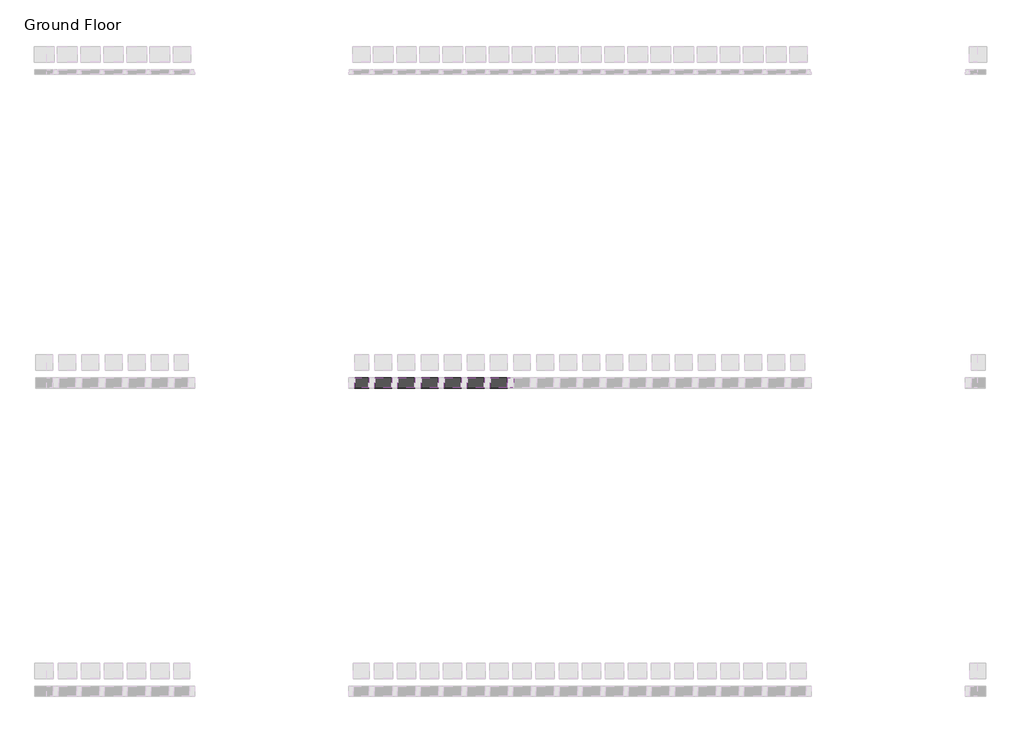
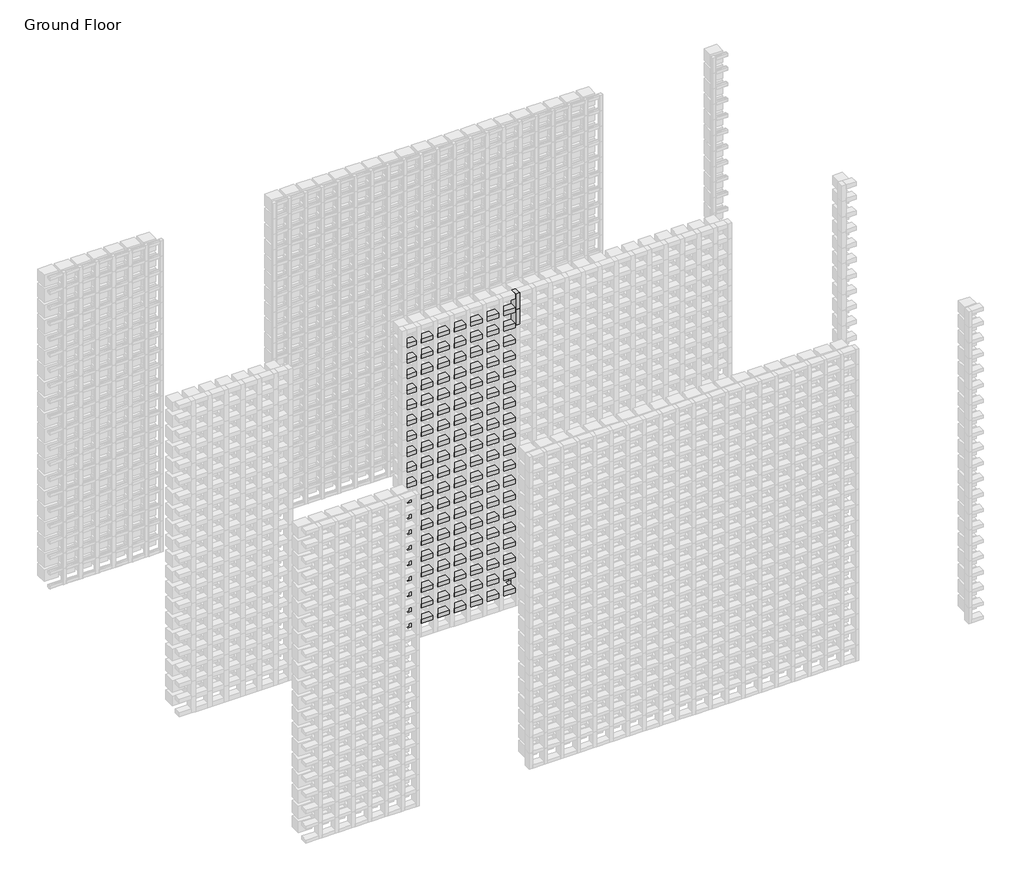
# One storey, part 146 of 350: 137 members, 7 plates.
"""IFC4 building model written with IfcOpenShell, lengths in millimetres."""

from ifc_helpers import new_model, si_unit, origin, place, context, project, spatial, transform, mapped, element, save
from components import rectangular_mullion_655930e9, rectangular_mullion_0b6a8654, rectangular_mullion_97e353d0, empty_system_panel_empty_1faefc6a

model = new_model("IFC4")

# Units and contexts
model_context = context("Model", 3, world=origin())
ifc_project = project(units=[si_unit("LENGTHUNIT", "METRE", prefix="MILLI")], contexts=[model_context])

# Site, building, storey
site = spatial("IfcSite", under=ifc_project)
building = spatial("IfcBuilding", under=site)
storey = spatial("IfcBuildingStorey", under=building, Name="Ground Floor", Elevation=0.0)

# Members
placement = place(None, origin())
rectangular_mullion_shape = rectangular_mullion_655930e9(model_context)
element("IfcMember", 1, ObjectType="Rectangular Mullion : Batten_Timber_Modinex_Austratus_Grid_Fascia_40x65_Ironbark", at=placement, inside=storey, context=model_context, shape_type="MappedRepresentation", body=[
    mapped(rectangular_mullion_shape, transform((15116.4361642, 40968.2978302, 0.0), x_axis=(1.0, 0.0, 0.0), y_axis=(0.0, -1.0, 0.0), z_axis=(0.0, 0.0, -1.0))),
])
element("IfcMember", 2, ObjectType="Rectangular Mullion : Batten_Timber_Modinex_Austratus_Grid_Fascia_40x65_Ironbark", at=placement, inside=storey, context=model_context, shape_type="MappedRepresentation", body=[
    mapped(rectangular_mullion_shape, transform((15266.4361642, 40968.2978302, 0.0), x_axis=(1.0, 0.0, 0.0), y_axis=(0.0, -1.0, 0.0), z_axis=(0.0, 0.0, -1.0))),
])
element("IfcMember", 3, ObjectType="Rectangular Mullion : Batten_Timber_Modinex_Austratus_Grid_Fascia_40x65_Ironbark", at=placement, inside=storey, context=model_context, shape_type="MappedRepresentation", body=[
    mapped(rectangular_mullion_shape, transform((14966.4361642, 40968.2978302, 2700.0), x_axis=(1.0, 0.0, 0.0), y_axis=(0.0, -1.0, 0.0), z_axis=(0.0, 0.0, -1.0))),
])
element("IfcMember", 4, ObjectType="Rectangular Mullion : Batten_Timber_Modinex_Austratus_Grid_Fascia_40x65_Ironbark", at=placement, inside=storey, context=model_context, shape_type="MappedRepresentation", body=[
    mapped(rectangular_mullion_shape, transform((14966.4361642, 40968.2978302, 2850.0), x_axis=(1.0, 0.0, 0.0), y_axis=(0.0, -1.0, 0.0), z_axis=(0.0, 0.0, -1.0))),
])
rectangular_mullion_2_shape = rectangular_mullion_0b6a8654(model_context)
element("IfcMember", 5, ObjectType="Rectangular Mullion : Batten_Timber_Modinex_Austratus_Grid_Fascia_40x65_Ironbark", at=placement, inside=storey, context=model_context, shape_type="MappedRepresentation", body=[
    mapped(rectangular_mullion_2_shape, transform((14046.4361642, 40968.2978302, 150.0), x_axis=(0.0, 0.0, 1.0), y_axis=(0.0, -1.0, 0.0), z_axis=(1.0, 0.0, 0.0))),
])
element("IfcMember", 6, ObjectType="Rectangular Mullion : Batten_Timber_Modinex_Austratus_Grid_Fascia_40x65_Ironbark", at=placement, inside=storey, context=model_context, shape_type="MappedRepresentation", body=[
    mapped(rectangular_mullion_2_shape, transform((14046.4361642, 40968.2978302, 300.0), x_axis=(0.0, 0.0, 1.0), y_axis=(0.0, -1.0, 0.0), z_axis=(1.0, 0.0, 0.0))),
])
element("IfcMember", 7, ObjectType="Rectangular Mullion : Batten_Timber_Modinex_Austratus_Grid_Fascia_40x65_Ironbark", at=placement, inside=storey, context=model_context, shape_type="MappedRepresentation", body=[
    mapped(rectangular_mullion_2_shape, transform((14046.4361642, 40968.2978302, 450.0), x_axis=(0.0, 0.0, 1.0), y_axis=(0.0, -1.0, 0.0), z_axis=(1.0, 0.0, 0.0))),
])
element("IfcMember", 8, ObjectType="Rectangular Mullion : Batten_Timber_Modinex_Austratus_Grid_Fascia_40x65_Ironbark", at=placement, inside=storey, context=model_context, shape_type="MappedRepresentation", body=[
    mapped(rectangular_mullion_2_shape, transform((14046.4361642, 40968.2978302, 600.0), x_axis=(0.0, 0.0, 1.0), y_axis=(0.0, -1.0, 0.0), z_axis=(1.0, 0.0, 0.0))),
])
element("IfcMember", 9, ObjectType="Rectangular Mullion : Batten_Timber_Modinex_Austratus_Grid_Fascia_40x65_Ironbark", at=placement, inside=storey, context=model_context, shape_type="MappedRepresentation", body=[
    mapped(rectangular_mullion_2_shape, transform((14046.4361642, 40968.2978302, 750.0), x_axis=(0.0, 0.0, 1.0), y_axis=(0.0, -1.0, 0.0), z_axis=(1.0, 0.0, 0.0))),
])
element("IfcMember", 10, ObjectType="Rectangular Mullion : Batten_Timber_Modinex_Austratus_Grid_Fascia_40x65_Ironbark", at=placement, inside=storey, context=model_context, shape_type="MappedRepresentation", body=[
    mapped(rectangular_mullion_2_shape, transform((14046.4361642, 40968.2978302, 900.0), x_axis=(0.0, 0.0, 1.0), y_axis=(0.0, -1.0, 0.0), z_axis=(1.0, 0.0, 0.0))),
])
element("IfcMember", 11, ObjectType="Rectangular Mullion : Batten_Timber_Modinex_Austratus_Grid_Fascia_40x65_Ironbark", at=placement, inside=storey, context=model_context, shape_type="MappedRepresentation", body=[
    mapped(rectangular_mullion_2_shape, transform((14046.4361642, 40968.2978302, 1050.0), x_axis=(0.0, 0.0, 1.0), y_axis=(0.0, -1.0, 0.0), z_axis=(1.0, 0.0, 0.0))),
])
element("IfcMember", 12, ObjectType="Rectangular Mullion : Batten_Timber_Modinex_Austratus_Grid_Fascia_40x65_Ironbark", at=placement, inside=storey, context=model_context, shape_type="MappedRepresentation", body=[
    mapped(rectangular_mullion_2_shape, transform((14046.4361642, 40968.2978302, 1200.0), x_axis=(0.0, 0.0, 1.0), y_axis=(0.0, -1.0, 0.0), z_axis=(1.0, 0.0, 0.0))),
])
element("IfcMember", 13, ObjectType="Rectangular Mullion : Batten_Timber_Modinex_Austratus_Grid_Fascia_40x65_Ironbark", at=placement, inside=storey, context=model_context, shape_type="MappedRepresentation", body=[
    mapped(rectangular_mullion_2_shape, transform((14046.4361642, 40968.2978302, 1350.0), x_axis=(0.0, 0.0, 1.0), y_axis=(0.0, -1.0, 0.0), z_axis=(1.0, 0.0, 0.0))),
])
element("IfcMember", 14, ObjectType="Rectangular Mullion : Batten_Timber_Modinex_Austratus_Grid_Fascia_40x65_Ironbark", at=placement, inside=storey, context=model_context, shape_type="MappedRepresentation", body=[
    mapped(rectangular_mullion_2_shape, transform((14046.4361642, 40968.2978302, 1500.0), x_axis=(0.0, 0.0, 1.0), y_axis=(0.0, -1.0, 0.0), z_axis=(1.0, 0.0, 0.0))),
])
element("IfcMember", 15, ObjectType="Rectangular Mullion : Batten_Timber_Modinex_Austratus_Grid_Fascia_40x65_Ironbark", at=placement, inside=storey, context=model_context, shape_type="MappedRepresentation", body=[
    mapped(rectangular_mullion_2_shape, transform((14046.4361642, 40968.2978302, 1650.0), x_axis=(0.0, 0.0, 1.0), y_axis=(0.0, -1.0, 0.0), z_axis=(1.0, 0.0, 0.0))),
])
element("IfcMember", 16, ObjectType="Rectangular Mullion : Batten_Timber_Modinex_Austratus_Grid_Fascia_40x65_Ironbark", at=placement, inside=storey, context=model_context, shape_type="MappedRepresentation", body=[
    mapped(rectangular_mullion_2_shape, transform((14046.4361642, 40968.2978302, 1800.0), x_axis=(0.0, 0.0, 1.0), y_axis=(0.0, -1.0, 0.0), z_axis=(1.0, 0.0, 0.0))),
])
element("IfcMember", 17, ObjectType="Rectangular Mullion : Batten_Timber_Modinex_Austratus_Grid_Fascia_40x65_Ironbark", at=placement, inside=storey, context=model_context, shape_type="MappedRepresentation", body=[
    mapped(rectangular_mullion_2_shape, transform((14046.4361642, 40968.2978302, 1950.0), x_axis=(0.0, 0.0, 1.0), y_axis=(0.0, -1.0, 0.0), z_axis=(1.0, 0.0, 0.0))),
])
element("IfcMember", 18, ObjectType="Rectangular Mullion : Batten_Timber_Modinex_Austratus_Grid_Fascia_40x65_Ironbark", at=placement, inside=storey, context=model_context, shape_type="MappedRepresentation", body=[
    mapped(rectangular_mullion_2_shape, transform((14046.4361642, 40968.2978302, 2100.0), x_axis=(0.0, 0.0, 1.0), y_axis=(0.0, -1.0, 0.0), z_axis=(1.0, 0.0, 0.0))),
])
element("IfcMember", 19, ObjectType="Rectangular Mullion : Batten_Timber_Modinex_Austratus_Grid_Fascia_40x65_Ironbark", at=placement, inside=storey, context=model_context, shape_type="MappedRepresentation", body=[
    mapped(rectangular_mullion_2_shape, transform((14046.4361642, 40968.2978302, 2250.0), x_axis=(0.0, 0.0, 1.0), y_axis=(0.0, -1.0, 0.0), z_axis=(1.0, 0.0, 0.0))),
])
element("IfcMember", 20, ObjectType="Rectangular Mullion : Batten_Timber_Modinex_Austratus_Grid_Fascia_40x65_Ironbark", at=placement, inside=storey, context=model_context, shape_type="MappedRepresentation", body=[
    mapped(rectangular_mullion_2_shape, transform((14046.4361642, 40968.2978302, 2400.0), x_axis=(0.0, 0.0, 1.0), y_axis=(0.0, -1.0, 0.0), z_axis=(1.0, 0.0, 0.0))),
])
element("IfcMember", 21, ObjectType="Rectangular Mullion : Batten_Timber_Modinex_Austratus_Grid_Fascia_40x65_Ironbark", at=placement, inside=storey, context=model_context, shape_type="MappedRepresentation", body=[
    mapped(rectangular_mullion_2_shape, transform((14046.4361642, 40968.2978302, 2550.0), x_axis=(0.0, 0.0, 1.0), y_axis=(0.0, -1.0, 0.0), z_axis=(1.0, 0.0, 0.0))),
])
element("IfcMember", 22, ObjectType="Rectangular Mullion : Batten_Timber_Modinex_Austratus_Grid_Fascia_40x65_Ironbark", at=placement, inside=storey, context=model_context, shape_type="MappedRepresentation", body=[
    mapped(rectangular_mullion_2_shape, transform((14046.4361642, 40968.2978302, 2700.0), x_axis=(0.0, 0.0, 1.0), y_axis=(0.0, -1.0, 0.0), z_axis=(1.0, 0.0, 0.0))),
])
element("IfcMember", 23, ObjectType="Rectangular Mullion : Batten_Timber_Modinex_Austratus_Grid_Fascia_40x65_Ironbark", at=placement, inside=storey, context=model_context, shape_type="MappedRepresentation", body=[
    mapped(rectangular_mullion_2_shape, transform((14046.4361642, 40968.2978302, 2850.0), x_axis=(0.0, 0.0, 1.0), y_axis=(0.0, -1.0, 0.0), z_axis=(1.0, 0.0, 0.0))),
])
rectangular_mullion_3_shape = rectangular_mullion_97e353d0(model_context)
element("IfcMember", 24, ObjectType="Rectangular Mullion : Batten_Timber_Modinex_Austratus_Grid_Fascia_40x65_Ironbark", at=placement, inside=storey, context=model_context, shape_type="MappedRepresentation", body=[
    mapped(rectangular_mullion_3_shape, transform((14196.4361642, 40968.2978302, 150.0), x_axis=(0.0, 0.0, 1.0), y_axis=(0.0, -1.0, 0.0), z_axis=(1.0, 0.0, 0.0))),
])
element("IfcMember", 25, ObjectType="Rectangular Mullion : Batten_Timber_Modinex_Austratus_Grid_Fascia_40x65_Ironbark", at=placement, inside=storey, context=model_context, shape_type="MappedRepresentation", body=[
    mapped(rectangular_mullion_3_shape, transform((14346.4361642, 40968.2978302, 150.0), x_axis=(0.0, 0.0, 1.0), y_axis=(0.0, -1.0, 0.0), z_axis=(1.0, 0.0, 0.0))),
])
element("IfcMember", 26, ObjectType="Rectangular Mullion : Batten_Timber_Modinex_Austratus_Grid_Fascia_40x65_Ironbark", at=placement, inside=storey, context=model_context, shape_type="MappedRepresentation", body=[
    mapped(rectangular_mullion_3_shape, transform((14496.4361642, 40968.2978302, 150.0), x_axis=(0.0, 0.0, 1.0), y_axis=(0.0, -1.0, 0.0), z_axis=(1.0, 0.0, 0.0))),
])
element("IfcMember", 27, ObjectType="Rectangular Mullion : Batten_Timber_Modinex_Austratus_Grid_Fascia_40x65_Ironbark", at=placement, inside=storey, context=model_context, shape_type="MappedRepresentation", body=[
    mapped(rectangular_mullion_3_shape, transform((14646.4361642, 40968.2978302, 150.0), x_axis=(0.0, 0.0, 1.0), y_axis=(0.0, -1.0, 0.0), z_axis=(1.0, 0.0, 0.0))),
])
element("IfcMember", 28, ObjectType="Rectangular Mullion : Batten_Timber_Modinex_Austratus_Grid_Fascia_40x65_Ironbark", at=placement, inside=storey, context=model_context, shape_type="MappedRepresentation", body=[
    mapped(rectangular_mullion_3_shape, transform((14796.4361642, 40968.2978302, 150.0), x_axis=(0.0, 0.0, 1.0), y_axis=(0.0, -1.0, 0.0), z_axis=(1.0, 0.0, 0.0))),
])
element("IfcMember", 29, ObjectType="Rectangular Mullion : Batten_Timber_Modinex_Austratus_Grid_Fascia_40x65_Ironbark", at=placement, inside=storey, context=model_context, shape_type="MappedRepresentation", body=[
    mapped(rectangular_mullion_3_shape, transform((14946.4361642, 40968.2978302, 150.0), x_axis=(0.0, 0.0, 1.0), y_axis=(0.0, -1.0, 0.0), z_axis=(1.0, 0.0, 0.0))),
])
element("IfcMember", 30, ObjectType="Rectangular Mullion : Batten_Timber_Modinex_Austratus_Grid_Fascia_40x65_Ironbark", at=placement, inside=storey, context=model_context, shape_type="MappedRepresentation", body=[
    mapped(rectangular_mullion_3_shape, transform((14196.4361642, 40968.2978302, 300.0), x_axis=(0.0, 0.0, 1.0), y_axis=(0.0, -1.0, 0.0), z_axis=(1.0, 0.0, 0.0))),
])
element("IfcMember", 31, ObjectType="Rectangular Mullion : Batten_Timber_Modinex_Austratus_Grid_Fascia_40x65_Ironbark", at=placement, inside=storey, context=model_context, shape_type="MappedRepresentation", body=[
    mapped(rectangular_mullion_3_shape, transform((14346.4361642, 40968.2978302, 300.0), x_axis=(0.0, 0.0, 1.0), y_axis=(0.0, -1.0, 0.0), z_axis=(1.0, 0.0, 0.0))),
])
element("IfcMember", 32, ObjectType="Rectangular Mullion : Batten_Timber_Modinex_Austratus_Grid_Fascia_40x65_Ironbark", at=placement, inside=storey, context=model_context, shape_type="MappedRepresentation", body=[
    mapped(rectangular_mullion_3_shape, transform((14496.4361642, 40968.2978302, 300.0), x_axis=(0.0, 0.0, 1.0), y_axis=(0.0, -1.0, 0.0), z_axis=(1.0, 0.0, 0.0))),
])
element("IfcMember", 33, ObjectType="Rectangular Mullion : Batten_Timber_Modinex_Austratus_Grid_Fascia_40x65_Ironbark", at=placement, inside=storey, context=model_context, shape_type="MappedRepresentation", body=[
    mapped(rectangular_mullion_3_shape, transform((14646.4361642, 40968.2978302, 300.0), x_axis=(0.0, 0.0, 1.0), y_axis=(0.0, -1.0, 0.0), z_axis=(1.0, 0.0, 0.0))),
])
element("IfcMember", 34, ObjectType="Rectangular Mullion : Batten_Timber_Modinex_Austratus_Grid_Fascia_40x65_Ironbark", at=placement, inside=storey, context=model_context, shape_type="MappedRepresentation", body=[
    mapped(rectangular_mullion_3_shape, transform((14796.4361642, 40968.2978302, 300.0), x_axis=(0.0, 0.0, 1.0), y_axis=(0.0, -1.0, 0.0), z_axis=(1.0, 0.0, 0.0))),
])
element("IfcMember", 35, ObjectType="Rectangular Mullion : Batten_Timber_Modinex_Austratus_Grid_Fascia_40x65_Ironbark", at=placement, inside=storey, context=model_context, shape_type="MappedRepresentation", body=[
    mapped(rectangular_mullion_3_shape, transform((14946.4361642, 40968.2978302, 300.0), x_axis=(0.0, 0.0, 1.0), y_axis=(0.0, -1.0, 0.0), z_axis=(1.0, 0.0, 0.0))),
])
element("IfcMember", 36, ObjectType="Rectangular Mullion : Batten_Timber_Modinex_Austratus_Grid_Fascia_40x65_Ironbark", at=placement, inside=storey, context=model_context, shape_type="MappedRepresentation", body=[
    mapped(rectangular_mullion_3_shape, transform((14196.4361642, 40968.2978302, 450.0), x_axis=(0.0, 0.0, 1.0), y_axis=(0.0, -1.0, 0.0), z_axis=(1.0, 0.0, 0.0))),
])
element("IfcMember", 37, ObjectType="Rectangular Mullion : Batten_Timber_Modinex_Austratus_Grid_Fascia_40x65_Ironbark", at=placement, inside=storey, context=model_context, shape_type="MappedRepresentation", body=[
    mapped(rectangular_mullion_3_shape, transform((14346.4361642, 40968.2978302, 450.0), x_axis=(0.0, 0.0, 1.0), y_axis=(0.0, -1.0, 0.0), z_axis=(1.0, 0.0, 0.0))),
])
element("IfcMember", 38, ObjectType="Rectangular Mullion : Batten_Timber_Modinex_Austratus_Grid_Fascia_40x65_Ironbark", at=placement, inside=storey, context=model_context, shape_type="MappedRepresentation", body=[
    mapped(rectangular_mullion_3_shape, transform((14496.4361642, 40968.2978302, 450.0), x_axis=(0.0, 0.0, 1.0), y_axis=(0.0, -1.0, 0.0), z_axis=(1.0, 0.0, 0.0))),
])
element("IfcMember", 39, ObjectType="Rectangular Mullion : Batten_Timber_Modinex_Austratus_Grid_Fascia_40x65_Ironbark", at=placement, inside=storey, context=model_context, shape_type="MappedRepresentation", body=[
    mapped(rectangular_mullion_3_shape, transform((14646.4361642, 40968.2978302, 450.0), x_axis=(0.0, 0.0, 1.0), y_axis=(0.0, -1.0, 0.0), z_axis=(1.0, 0.0, 0.0))),
])
element("IfcMember", 40, ObjectType="Rectangular Mullion : Batten_Timber_Modinex_Austratus_Grid_Fascia_40x65_Ironbark", at=placement, inside=storey, context=model_context, shape_type="MappedRepresentation", body=[
    mapped(rectangular_mullion_3_shape, transform((14796.4361642, 40968.2978302, 450.0), x_axis=(0.0, 0.0, 1.0), y_axis=(0.0, -1.0, 0.0), z_axis=(1.0, 0.0, 0.0))),
])
element("IfcMember", 41, ObjectType="Rectangular Mullion : Batten_Timber_Modinex_Austratus_Grid_Fascia_40x65_Ironbark", at=placement, inside=storey, context=model_context, shape_type="MappedRepresentation", body=[
    mapped(rectangular_mullion_3_shape, transform((14946.4361642, 40968.2978302, 450.0), x_axis=(0.0, 0.0, 1.0), y_axis=(0.0, -1.0, 0.0), z_axis=(1.0, 0.0, 0.0))),
])
element("IfcMember", 42, ObjectType="Rectangular Mullion : Batten_Timber_Modinex_Austratus_Grid_Fascia_40x65_Ironbark", at=placement, inside=storey, context=model_context, shape_type="MappedRepresentation", body=[
    mapped(rectangular_mullion_3_shape, transform((14196.4361642, 40968.2978302, 600.0), x_axis=(0.0, 0.0, 1.0), y_axis=(0.0, -1.0, 0.0), z_axis=(1.0, 0.0, 0.0))),
])
element("IfcMember", 43, ObjectType="Rectangular Mullion : Batten_Timber_Modinex_Austratus_Grid_Fascia_40x65_Ironbark", at=placement, inside=storey, context=model_context, shape_type="MappedRepresentation", body=[
    mapped(rectangular_mullion_3_shape, transform((14346.4361642, 40968.2978302, 600.0), x_axis=(0.0, 0.0, 1.0), y_axis=(0.0, -1.0, 0.0), z_axis=(1.0, 0.0, 0.0))),
])
element("IfcMember", 44, ObjectType="Rectangular Mullion : Batten_Timber_Modinex_Austratus_Grid_Fascia_40x65_Ironbark", at=placement, inside=storey, context=model_context, shape_type="MappedRepresentation", body=[
    mapped(rectangular_mullion_3_shape, transform((14496.4361642, 40968.2978302, 600.0), x_axis=(0.0, 0.0, 1.0), y_axis=(0.0, -1.0, 0.0), z_axis=(1.0, 0.0, 0.0))),
])
element("IfcMember", 45, ObjectType="Rectangular Mullion : Batten_Timber_Modinex_Austratus_Grid_Fascia_40x65_Ironbark", at=placement, inside=storey, context=model_context, shape_type="MappedRepresentation", body=[
    mapped(rectangular_mullion_3_shape, transform((14646.4361642, 40968.2978302, 600.0), x_axis=(0.0, 0.0, 1.0), y_axis=(0.0, -1.0, 0.0), z_axis=(1.0, 0.0, 0.0))),
])
element("IfcMember", 46, ObjectType="Rectangular Mullion : Batten_Timber_Modinex_Austratus_Grid_Fascia_40x65_Ironbark", at=placement, inside=storey, context=model_context, shape_type="MappedRepresentation", body=[
    mapped(rectangular_mullion_3_shape, transform((14796.4361642, 40968.2978302, 600.0), x_axis=(0.0, 0.0, 1.0), y_axis=(0.0, -1.0, 0.0), z_axis=(1.0, 0.0, 0.0))),
])
element("IfcMember", 47, ObjectType="Rectangular Mullion : Batten_Timber_Modinex_Austratus_Grid_Fascia_40x65_Ironbark", at=placement, inside=storey, context=model_context, shape_type="MappedRepresentation", body=[
    mapped(rectangular_mullion_3_shape, transform((14946.4361642, 40968.2978302, 600.0), x_axis=(0.0, 0.0, 1.0), y_axis=(0.0, -1.0, 0.0), z_axis=(1.0, 0.0, 0.0))),
])
element("IfcMember", 48, ObjectType="Rectangular Mullion : Batten_Timber_Modinex_Austratus_Grid_Fascia_40x65_Ironbark", at=placement, inside=storey, context=model_context, shape_type="MappedRepresentation", body=[
    mapped(rectangular_mullion_3_shape, transform((14196.4361642, 40968.2978302, 750.0), x_axis=(0.0, 0.0, 1.0), y_axis=(0.0, -1.0, 0.0), z_axis=(1.0, 0.0, 0.0))),
])
element("IfcMember", 49, ObjectType="Rectangular Mullion : Batten_Timber_Modinex_Austratus_Grid_Fascia_40x65_Ironbark", at=placement, inside=storey, context=model_context, shape_type="MappedRepresentation", body=[
    mapped(rectangular_mullion_3_shape, transform((14346.4361642, 40968.2978302, 750.0), x_axis=(0.0, 0.0, 1.0), y_axis=(0.0, -1.0, 0.0), z_axis=(1.0, 0.0, 0.0))),
])
element("IfcMember", 50, ObjectType="Rectangular Mullion : Batten_Timber_Modinex_Austratus_Grid_Fascia_40x65_Ironbark", at=placement, inside=storey, context=model_context, shape_type="MappedRepresentation", body=[
    mapped(rectangular_mullion_3_shape, transform((14496.4361642, 40968.2978302, 750.0), x_axis=(0.0, 0.0, 1.0), y_axis=(0.0, -1.0, 0.0), z_axis=(1.0, 0.0, 0.0))),
])
element("IfcMember", 51, ObjectType="Rectangular Mullion : Batten_Timber_Modinex_Austratus_Grid_Fascia_40x65_Ironbark", at=placement, inside=storey, context=model_context, shape_type="MappedRepresentation", body=[
    mapped(rectangular_mullion_3_shape, transform((14646.4361642, 40968.2978302, 750.0), x_axis=(0.0, 0.0, 1.0), y_axis=(0.0, -1.0, 0.0), z_axis=(1.0, 0.0, 0.0))),
])
element("IfcMember", 52, ObjectType="Rectangular Mullion : Batten_Timber_Modinex_Austratus_Grid_Fascia_40x65_Ironbark", at=placement, inside=storey, context=model_context, shape_type="MappedRepresentation", body=[
    mapped(rectangular_mullion_3_shape, transform((14796.4361642, 40968.2978302, 750.0), x_axis=(0.0, 0.0, 1.0), y_axis=(0.0, -1.0, 0.0), z_axis=(1.0, 0.0, 0.0))),
])
element("IfcMember", 53, ObjectType="Rectangular Mullion : Batten_Timber_Modinex_Austratus_Grid_Fascia_40x65_Ironbark", at=placement, inside=storey, context=model_context, shape_type="MappedRepresentation", body=[
    mapped(rectangular_mullion_3_shape, transform((14946.4361642, 40968.2978302, 750.0), x_axis=(0.0, 0.0, 1.0), y_axis=(0.0, -1.0, 0.0), z_axis=(1.0, 0.0, 0.0))),
])
element("IfcMember", 54, ObjectType="Rectangular Mullion : Batten_Timber_Modinex_Austratus_Grid_Fascia_40x65_Ironbark", at=placement, inside=storey, context=model_context, shape_type="MappedRepresentation", body=[
    mapped(rectangular_mullion_3_shape, transform((14196.4361642, 40968.2978302, 900.0), x_axis=(0.0, 0.0, 1.0), y_axis=(0.0, -1.0, 0.0), z_axis=(1.0, 0.0, 0.0))),
])
element("IfcMember", 55, ObjectType="Rectangular Mullion : Batten_Timber_Modinex_Austratus_Grid_Fascia_40x65_Ironbark", at=placement, inside=storey, context=model_context, shape_type="MappedRepresentation", body=[
    mapped(rectangular_mullion_3_shape, transform((14346.4361642, 40968.2978302, 900.0), x_axis=(0.0, 0.0, 1.0), y_axis=(0.0, -1.0, 0.0), z_axis=(1.0, 0.0, 0.0))),
])
element("IfcMember", 56, ObjectType="Rectangular Mullion : Batten_Timber_Modinex_Austratus_Grid_Fascia_40x65_Ironbark", at=placement, inside=storey, context=model_context, shape_type="MappedRepresentation", body=[
    mapped(rectangular_mullion_3_shape, transform((14496.4361642, 40968.2978302, 900.0), x_axis=(0.0, 0.0, 1.0), y_axis=(0.0, -1.0, 0.0), z_axis=(1.0, 0.0, 0.0))),
])
element("IfcMember", 57, ObjectType="Rectangular Mullion : Batten_Timber_Modinex_Austratus_Grid_Fascia_40x65_Ironbark", at=placement, inside=storey, context=model_context, shape_type="MappedRepresentation", body=[
    mapped(rectangular_mullion_3_shape, transform((14646.4361642, 40968.2978302, 900.0), x_axis=(0.0, 0.0, 1.0), y_axis=(0.0, -1.0, 0.0), z_axis=(1.0, 0.0, 0.0))),
])
element("IfcMember", 58, ObjectType="Rectangular Mullion : Batten_Timber_Modinex_Austratus_Grid_Fascia_40x65_Ironbark", at=placement, inside=storey, context=model_context, shape_type="MappedRepresentation", body=[
    mapped(rectangular_mullion_3_shape, transform((14796.4361642, 40968.2978302, 900.0), x_axis=(0.0, 0.0, 1.0), y_axis=(0.0, -1.0, 0.0), z_axis=(1.0, 0.0, 0.0))),
])
element("IfcMember", 59, ObjectType="Rectangular Mullion : Batten_Timber_Modinex_Austratus_Grid_Fascia_40x65_Ironbark", at=placement, inside=storey, context=model_context, shape_type="MappedRepresentation", body=[
    mapped(rectangular_mullion_3_shape, transform((14946.4361642, 40968.2978302, 900.0), x_axis=(0.0, 0.0, 1.0), y_axis=(0.0, -1.0, 0.0), z_axis=(1.0, 0.0, 0.0))),
])
element("IfcMember", 60, ObjectType="Rectangular Mullion : Batten_Timber_Modinex_Austratus_Grid_Fascia_40x65_Ironbark", at=placement, inside=storey, context=model_context, shape_type="MappedRepresentation", body=[
    mapped(rectangular_mullion_3_shape, transform((14196.4361642, 40968.2978302, 1050.0), x_axis=(0.0, 0.0, 1.0), y_axis=(0.0, -1.0, 0.0), z_axis=(1.0, 0.0, 0.0))),
])
element("IfcMember", 61, ObjectType="Rectangular Mullion : Batten_Timber_Modinex_Austratus_Grid_Fascia_40x65_Ironbark", at=placement, inside=storey, context=model_context, shape_type="MappedRepresentation", body=[
    mapped(rectangular_mullion_3_shape, transform((14346.4361642, 40968.2978302, 1050.0), x_axis=(0.0, 0.0, 1.0), y_axis=(0.0, -1.0, 0.0), z_axis=(1.0, 0.0, 0.0))),
])
element("IfcMember", 62, ObjectType="Rectangular Mullion : Batten_Timber_Modinex_Austratus_Grid_Fascia_40x65_Ironbark", at=placement, inside=storey, context=model_context, shape_type="MappedRepresentation", body=[
    mapped(rectangular_mullion_3_shape, transform((14496.4361642, 40968.2978302, 1050.0), x_axis=(0.0, 0.0, 1.0), y_axis=(0.0, -1.0, 0.0), z_axis=(1.0, 0.0, 0.0))),
])
element("IfcMember", 63, ObjectType="Rectangular Mullion : Batten_Timber_Modinex_Austratus_Grid_Fascia_40x65_Ironbark", at=placement, inside=storey, context=model_context, shape_type="MappedRepresentation", body=[
    mapped(rectangular_mullion_3_shape, transform((14646.4361642, 40968.2978302, 1050.0), x_axis=(0.0, 0.0, 1.0), y_axis=(0.0, -1.0, 0.0), z_axis=(1.0, 0.0, 0.0))),
])
element("IfcMember", 64, ObjectType="Rectangular Mullion : Batten_Timber_Modinex_Austratus_Grid_Fascia_40x65_Ironbark", at=placement, inside=storey, context=model_context, shape_type="MappedRepresentation", body=[
    mapped(rectangular_mullion_3_shape, transform((14796.4361642, 40968.2978302, 1050.0), x_axis=(0.0, 0.0, 1.0), y_axis=(0.0, -1.0, 0.0), z_axis=(1.0, 0.0, 0.0))),
])
element("IfcMember", 65, ObjectType="Rectangular Mullion : Batten_Timber_Modinex_Austratus_Grid_Fascia_40x65_Ironbark", at=placement, inside=storey, context=model_context, shape_type="MappedRepresentation", body=[
    mapped(rectangular_mullion_3_shape, transform((14946.4361642, 40968.2978302, 1050.0), x_axis=(0.0, 0.0, 1.0), y_axis=(0.0, -1.0, 0.0), z_axis=(1.0, 0.0, 0.0))),
])
element("IfcMember", 66, ObjectType="Rectangular Mullion : Batten_Timber_Modinex_Austratus_Grid_Fascia_40x65_Ironbark", at=placement, inside=storey, context=model_context, shape_type="MappedRepresentation", body=[
    mapped(rectangular_mullion_3_shape, transform((14196.4361642, 40968.2978302, 1200.0), x_axis=(0.0, 0.0, 1.0), y_axis=(0.0, -1.0, 0.0), z_axis=(1.0, 0.0, 0.0))),
])
element("IfcMember", 67, ObjectType="Rectangular Mullion : Batten_Timber_Modinex_Austratus_Grid_Fascia_40x65_Ironbark", at=placement, inside=storey, context=model_context, shape_type="MappedRepresentation", body=[
    mapped(rectangular_mullion_3_shape, transform((14346.4361642, 40968.2978302, 1200.0), x_axis=(0.0, 0.0, 1.0), y_axis=(0.0, -1.0, 0.0), z_axis=(1.0, 0.0, 0.0))),
])
element("IfcMember", 68, ObjectType="Rectangular Mullion : Batten_Timber_Modinex_Austratus_Grid_Fascia_40x65_Ironbark", at=placement, inside=storey, context=model_context, shape_type="MappedRepresentation", body=[
    mapped(rectangular_mullion_3_shape, transform((14496.4361642, 40968.2978302, 1200.0), x_axis=(0.0, 0.0, 1.0), y_axis=(0.0, -1.0, 0.0), z_axis=(1.0, 0.0, 0.0))),
])
element("IfcMember", 69, ObjectType="Rectangular Mullion : Batten_Timber_Modinex_Austratus_Grid_Fascia_40x65_Ironbark", at=placement, inside=storey, context=model_context, shape_type="MappedRepresentation", body=[
    mapped(rectangular_mullion_3_shape, transform((14646.4361642, 40968.2978302, 1200.0), x_axis=(0.0, 0.0, 1.0), y_axis=(0.0, -1.0, 0.0), z_axis=(1.0, 0.0, 0.0))),
])
element("IfcMember", 70, ObjectType="Rectangular Mullion : Batten_Timber_Modinex_Austratus_Grid_Fascia_40x65_Ironbark", at=placement, inside=storey, context=model_context, shape_type="MappedRepresentation", body=[
    mapped(rectangular_mullion_3_shape, transform((14796.4361642, 40968.2978302, 1200.0), x_axis=(0.0, 0.0, 1.0), y_axis=(0.0, -1.0, 0.0), z_axis=(1.0, 0.0, 0.0))),
])
element("IfcMember", 71, ObjectType="Rectangular Mullion : Batten_Timber_Modinex_Austratus_Grid_Fascia_40x65_Ironbark", at=placement, inside=storey, context=model_context, shape_type="MappedRepresentation", body=[
    mapped(rectangular_mullion_3_shape, transform((14946.4361642, 40968.2978302, 1200.0), x_axis=(0.0, 0.0, 1.0), y_axis=(0.0, -1.0, 0.0), z_axis=(1.0, 0.0, 0.0))),
])
element("IfcMember", 72, ObjectType="Rectangular Mullion : Batten_Timber_Modinex_Austratus_Grid_Fascia_40x65_Ironbark", at=placement, inside=storey, context=model_context, shape_type="MappedRepresentation", body=[
    mapped(rectangular_mullion_3_shape, transform((14196.4361642, 40968.2978302, 1350.0), x_axis=(0.0, 0.0, 1.0), y_axis=(0.0, -1.0, 0.0), z_axis=(1.0, 0.0, 0.0))),
])
element("IfcMember", 73, ObjectType="Rectangular Mullion : Batten_Timber_Modinex_Austratus_Grid_Fascia_40x65_Ironbark", at=placement, inside=storey, context=model_context, shape_type="MappedRepresentation", body=[
    mapped(rectangular_mullion_3_shape, transform((14346.4361642, 40968.2978302, 1350.0), x_axis=(0.0, 0.0, 1.0), y_axis=(0.0, -1.0, 0.0), z_axis=(1.0, 0.0, 0.0))),
])
element("IfcMember", 74, ObjectType="Rectangular Mullion : Batten_Timber_Modinex_Austratus_Grid_Fascia_40x65_Ironbark", at=placement, inside=storey, context=model_context, shape_type="MappedRepresentation", body=[
    mapped(rectangular_mullion_3_shape, transform((14496.4361642, 40968.2978302, 1350.0), x_axis=(0.0, 0.0, 1.0), y_axis=(0.0, -1.0, 0.0), z_axis=(1.0, 0.0, 0.0))),
])
element("IfcMember", 75, ObjectType="Rectangular Mullion : Batten_Timber_Modinex_Austratus_Grid_Fascia_40x65_Ironbark", at=placement, inside=storey, context=model_context, shape_type="MappedRepresentation", body=[
    mapped(rectangular_mullion_3_shape, transform((14646.4361642, 40968.2978302, 1350.0), x_axis=(0.0, 0.0, 1.0), y_axis=(0.0, -1.0, 0.0), z_axis=(1.0, 0.0, 0.0))),
])
element("IfcMember", 76, ObjectType="Rectangular Mullion : Batten_Timber_Modinex_Austratus_Grid_Fascia_40x65_Ironbark", at=placement, inside=storey, context=model_context, shape_type="MappedRepresentation", body=[
    mapped(rectangular_mullion_3_shape, transform((14796.4361642, 40968.2978302, 1350.0), x_axis=(0.0, 0.0, 1.0), y_axis=(0.0, -1.0, 0.0), z_axis=(1.0, 0.0, 0.0))),
])
element("IfcMember", 77, ObjectType="Rectangular Mullion : Batten_Timber_Modinex_Austratus_Grid_Fascia_40x65_Ironbark", at=placement, inside=storey, context=model_context, shape_type="MappedRepresentation", body=[
    mapped(rectangular_mullion_3_shape, transform((14946.4361642, 40968.2978302, 1350.0), x_axis=(0.0, 0.0, 1.0), y_axis=(0.0, -1.0, 0.0), z_axis=(1.0, 0.0, 0.0))),
])
element("IfcMember", 78, ObjectType="Rectangular Mullion : Batten_Timber_Modinex_Austratus_Grid_Fascia_40x65_Ironbark", at=placement, inside=storey, context=model_context, shape_type="MappedRepresentation", body=[
    mapped(rectangular_mullion_3_shape, transform((14196.4361642, 40968.2978302, 1500.0), x_axis=(0.0, 0.0, 1.0), y_axis=(0.0, -1.0, 0.0), z_axis=(1.0, 0.0, 0.0))),
])
element("IfcMember", 79, ObjectType="Rectangular Mullion : Batten_Timber_Modinex_Austratus_Grid_Fascia_40x65_Ironbark", at=placement, inside=storey, context=model_context, shape_type="MappedRepresentation", body=[
    mapped(rectangular_mullion_3_shape, transform((14346.4361642, 40968.2978302, 1500.0), x_axis=(0.0, 0.0, 1.0), y_axis=(0.0, -1.0, 0.0), z_axis=(1.0, 0.0, 0.0))),
])
element("IfcMember", 80, ObjectType="Rectangular Mullion : Batten_Timber_Modinex_Austratus_Grid_Fascia_40x65_Ironbark", at=placement, inside=storey, context=model_context, shape_type="MappedRepresentation", body=[
    mapped(rectangular_mullion_3_shape, transform((14496.4361642, 40968.2978302, 1500.0), x_axis=(0.0, 0.0, 1.0), y_axis=(0.0, -1.0, 0.0), z_axis=(1.0, 0.0, 0.0))),
])
element("IfcMember", 81, ObjectType="Rectangular Mullion : Batten_Timber_Modinex_Austratus_Grid_Fascia_40x65_Ironbark", at=placement, inside=storey, context=model_context, shape_type="MappedRepresentation", body=[
    mapped(rectangular_mullion_3_shape, transform((14646.4361642, 40968.2978302, 1500.0), x_axis=(0.0, 0.0, 1.0), y_axis=(0.0, -1.0, 0.0), z_axis=(1.0, 0.0, 0.0))),
])
element("IfcMember", 82, ObjectType="Rectangular Mullion : Batten_Timber_Modinex_Austratus_Grid_Fascia_40x65_Ironbark", at=placement, inside=storey, context=model_context, shape_type="MappedRepresentation", body=[
    mapped(rectangular_mullion_3_shape, transform((14796.4361642, 40968.2978302, 1500.0), x_axis=(0.0, 0.0, 1.0), y_axis=(0.0, -1.0, 0.0), z_axis=(1.0, 0.0, 0.0))),
])
element("IfcMember", 83, ObjectType="Rectangular Mullion : Batten_Timber_Modinex_Austratus_Grid_Fascia_40x65_Ironbark", at=placement, inside=storey, context=model_context, shape_type="MappedRepresentation", body=[
    mapped(rectangular_mullion_3_shape, transform((14946.4361642, 40968.2978302, 1500.0), x_axis=(0.0, 0.0, 1.0), y_axis=(0.0, -1.0, 0.0), z_axis=(1.0, 0.0, 0.0))),
])
element("IfcMember", 84, ObjectType="Rectangular Mullion : Batten_Timber_Modinex_Austratus_Grid_Fascia_40x65_Ironbark", at=placement, inside=storey, context=model_context, shape_type="MappedRepresentation", body=[
    mapped(rectangular_mullion_3_shape, transform((14196.4361642, 40968.2978302, 1650.0), x_axis=(0.0, 0.0, 1.0), y_axis=(0.0, -1.0, 0.0), z_axis=(1.0, 0.0, 0.0))),
])
element("IfcMember", 85, ObjectType="Rectangular Mullion : Batten_Timber_Modinex_Austratus_Grid_Fascia_40x65_Ironbark", at=placement, inside=storey, context=model_context, shape_type="MappedRepresentation", body=[
    mapped(rectangular_mullion_3_shape, transform((14346.4361642, 40968.2978302, 1650.0), x_axis=(0.0, 0.0, 1.0), y_axis=(0.0, -1.0, 0.0), z_axis=(1.0, 0.0, 0.0))),
])
element("IfcMember", 86, ObjectType="Rectangular Mullion : Batten_Timber_Modinex_Austratus_Grid_Fascia_40x65_Ironbark", at=placement, inside=storey, context=model_context, shape_type="MappedRepresentation", body=[
    mapped(rectangular_mullion_3_shape, transform((14496.4361642, 40968.2978302, 1650.0), x_axis=(0.0, 0.0, 1.0), y_axis=(0.0, -1.0, 0.0), z_axis=(1.0, 0.0, 0.0))),
])
element("IfcMember", 87, ObjectType="Rectangular Mullion : Batten_Timber_Modinex_Austratus_Grid_Fascia_40x65_Ironbark", at=placement, inside=storey, context=model_context, shape_type="MappedRepresentation", body=[
    mapped(rectangular_mullion_3_shape, transform((14646.4361642, 40968.2978302, 1650.0), x_axis=(0.0, 0.0, 1.0), y_axis=(0.0, -1.0, 0.0), z_axis=(1.0, 0.0, 0.0))),
])
element("IfcMember", 88, ObjectType="Rectangular Mullion : Batten_Timber_Modinex_Austratus_Grid_Fascia_40x65_Ironbark", at=placement, inside=storey, context=model_context, shape_type="MappedRepresentation", body=[
    mapped(rectangular_mullion_3_shape, transform((14796.4361642, 40968.2978302, 1650.0), x_axis=(0.0, 0.0, 1.0), y_axis=(0.0, -1.0, 0.0), z_axis=(1.0, 0.0, 0.0))),
])
element("IfcMember", 89, ObjectType="Rectangular Mullion : Batten_Timber_Modinex_Austratus_Grid_Fascia_40x65_Ironbark", at=placement, inside=storey, context=model_context, shape_type="MappedRepresentation", body=[
    mapped(rectangular_mullion_3_shape, transform((14946.4361642, 40968.2978302, 1650.0), x_axis=(0.0, 0.0, 1.0), y_axis=(0.0, -1.0, 0.0), z_axis=(1.0, 0.0, 0.0))),
])
element("IfcMember", 90, ObjectType="Rectangular Mullion : Batten_Timber_Modinex_Austratus_Grid_Fascia_40x65_Ironbark", at=placement, inside=storey, context=model_context, shape_type="MappedRepresentation", body=[
    mapped(rectangular_mullion_3_shape, transform((14196.4361642, 40968.2978302, 1800.0), x_axis=(0.0, 0.0, 1.0), y_axis=(0.0, -1.0, 0.0), z_axis=(1.0, 0.0, 0.0))),
])
element("IfcMember", 91, ObjectType="Rectangular Mullion : Batten_Timber_Modinex_Austratus_Grid_Fascia_40x65_Ironbark", at=placement, inside=storey, context=model_context, shape_type="MappedRepresentation", body=[
    mapped(rectangular_mullion_3_shape, transform((14346.4361642, 40968.2978302, 1800.0), x_axis=(0.0, 0.0, 1.0), y_axis=(0.0, -1.0, 0.0), z_axis=(1.0, 0.0, 0.0))),
])
element("IfcMember", 92, ObjectType="Rectangular Mullion : Batten_Timber_Modinex_Austratus_Grid_Fascia_40x65_Ironbark", at=placement, inside=storey, context=model_context, shape_type="MappedRepresentation", body=[
    mapped(rectangular_mullion_3_shape, transform((14496.4361642, 40968.2978302, 1800.0), x_axis=(0.0, 0.0, 1.0), y_axis=(0.0, -1.0, 0.0), z_axis=(1.0, 0.0, 0.0))),
])
element("IfcMember", 93, ObjectType="Rectangular Mullion : Batten_Timber_Modinex_Austratus_Grid_Fascia_40x65_Ironbark", at=placement, inside=storey, context=model_context, shape_type="MappedRepresentation", body=[
    mapped(rectangular_mullion_3_shape, transform((14646.4361642, 40968.2978302, 1800.0), x_axis=(0.0, 0.0, 1.0), y_axis=(0.0, -1.0, 0.0), z_axis=(1.0, 0.0, 0.0))),
])
element("IfcMember", 94, ObjectType="Rectangular Mullion : Batten_Timber_Modinex_Austratus_Grid_Fascia_40x65_Ironbark", at=placement, inside=storey, context=model_context, shape_type="MappedRepresentation", body=[
    mapped(rectangular_mullion_3_shape, transform((14796.4361642, 40968.2978302, 1800.0), x_axis=(0.0, 0.0, 1.0), y_axis=(0.0, -1.0, 0.0), z_axis=(1.0, 0.0, 0.0))),
])
element("IfcMember", 95, ObjectType="Rectangular Mullion : Batten_Timber_Modinex_Austratus_Grid_Fascia_40x65_Ironbark", at=placement, inside=storey, context=model_context, shape_type="MappedRepresentation", body=[
    mapped(rectangular_mullion_3_shape, transform((14946.4361642, 40968.2978302, 1800.0), x_axis=(0.0, 0.0, 1.0), y_axis=(0.0, -1.0, 0.0), z_axis=(1.0, 0.0, 0.0))),
])
element("IfcMember", 96, ObjectType="Rectangular Mullion : Batten_Timber_Modinex_Austratus_Grid_Fascia_40x65_Ironbark", at=placement, inside=storey, context=model_context, shape_type="MappedRepresentation", body=[
    mapped(rectangular_mullion_3_shape, transform((14196.4361642, 40968.2978302, 1950.0), x_axis=(0.0, 0.0, 1.0), y_axis=(0.0, -1.0, 0.0), z_axis=(1.0, 0.0, 0.0))),
])
element("IfcMember", 97, ObjectType="Rectangular Mullion : Batten_Timber_Modinex_Austratus_Grid_Fascia_40x65_Ironbark", at=placement, inside=storey, context=model_context, shape_type="MappedRepresentation", body=[
    mapped(rectangular_mullion_3_shape, transform((14346.4361642, 40968.2978302, 1950.0), x_axis=(0.0, 0.0, 1.0), y_axis=(0.0, -1.0, 0.0), z_axis=(1.0, 0.0, 0.0))),
])
element("IfcMember", 98, ObjectType="Rectangular Mullion : Batten_Timber_Modinex_Austratus_Grid_Fascia_40x65_Ironbark", at=placement, inside=storey, context=model_context, shape_type="MappedRepresentation", body=[
    mapped(rectangular_mullion_3_shape, transform((14496.4361642, 40968.2978302, 1950.0), x_axis=(0.0, 0.0, 1.0), y_axis=(0.0, -1.0, 0.0), z_axis=(1.0, 0.0, 0.0))),
])
element("IfcMember", 99, ObjectType="Rectangular Mullion : Batten_Timber_Modinex_Austratus_Grid_Fascia_40x65_Ironbark", at=placement, inside=storey, context=model_context, shape_type="MappedRepresentation", body=[
    mapped(rectangular_mullion_3_shape, transform((14646.4361642, 40968.2978302, 1950.0), x_axis=(0.0, 0.0, 1.0), y_axis=(0.0, -1.0, 0.0), z_axis=(1.0, 0.0, 0.0))),
])
element("IfcMember", 100, ObjectType="Rectangular Mullion : Batten_Timber_Modinex_Austratus_Grid_Fascia_40x65_Ironbark", at=placement, inside=storey, context=model_context, shape_type="MappedRepresentation", body=[
    mapped(rectangular_mullion_3_shape, transform((14796.4361642, 40968.2978302, 1950.0), x_axis=(0.0, 0.0, 1.0), y_axis=(0.0, -1.0, 0.0), z_axis=(1.0, 0.0, 0.0))),
])
element("IfcMember", 101, ObjectType="Rectangular Mullion : Batten_Timber_Modinex_Austratus_Grid_Fascia_40x65_Ironbark", at=placement, inside=storey, context=model_context, shape_type="MappedRepresentation", body=[
    mapped(rectangular_mullion_3_shape, transform((14946.4361642, 40968.2978302, 1950.0), x_axis=(0.0, 0.0, 1.0), y_axis=(0.0, -1.0, 0.0), z_axis=(1.0, 0.0, 0.0))),
])
element("IfcMember", 102, ObjectType="Rectangular Mullion : Batten_Timber_Modinex_Austratus_Grid_Fascia_40x65_Ironbark", at=placement, inside=storey, context=model_context, shape_type="MappedRepresentation", body=[
    mapped(rectangular_mullion_3_shape, transform((14196.4361642, 40968.2978302, 2100.0), x_axis=(0.0, 0.0, 1.0), y_axis=(0.0, -1.0, 0.0), z_axis=(1.0, 0.0, 0.0))),
])
element("IfcMember", 103, ObjectType="Rectangular Mullion : Batten_Timber_Modinex_Austratus_Grid_Fascia_40x65_Ironbark", at=placement, inside=storey, context=model_context, shape_type="MappedRepresentation", body=[
    mapped(rectangular_mullion_3_shape, transform((14346.4361642, 40968.2978302, 2100.0), x_axis=(0.0, 0.0, 1.0), y_axis=(0.0, -1.0, 0.0), z_axis=(1.0, 0.0, 0.0))),
])
element("IfcMember", 104, ObjectType="Rectangular Mullion : Batten_Timber_Modinex_Austratus_Grid_Fascia_40x65_Ironbark", at=placement, inside=storey, context=model_context, shape_type="MappedRepresentation", body=[
    mapped(rectangular_mullion_3_shape, transform((14496.4361642, 40968.2978302, 2100.0), x_axis=(0.0, 0.0, 1.0), y_axis=(0.0, -1.0, 0.0), z_axis=(1.0, 0.0, 0.0))),
])
element("IfcMember", 105, ObjectType="Rectangular Mullion : Batten_Timber_Modinex_Austratus_Grid_Fascia_40x65_Ironbark", at=placement, inside=storey, context=model_context, shape_type="MappedRepresentation", body=[
    mapped(rectangular_mullion_3_shape, transform((14646.4361642, 40968.2978302, 2100.0), x_axis=(0.0, 0.0, 1.0), y_axis=(0.0, -1.0, 0.0), z_axis=(1.0, 0.0, 0.0))),
])
element("IfcMember", 106, ObjectType="Rectangular Mullion : Batten_Timber_Modinex_Austratus_Grid_Fascia_40x65_Ironbark", at=placement, inside=storey, context=model_context, shape_type="MappedRepresentation", body=[
    mapped(rectangular_mullion_3_shape, transform((14796.4361642, 40968.2978302, 2100.0), x_axis=(0.0, 0.0, 1.0), y_axis=(0.0, -1.0, 0.0), z_axis=(1.0, 0.0, 0.0))),
])
element("IfcMember", 107, ObjectType="Rectangular Mullion : Batten_Timber_Modinex_Austratus_Grid_Fascia_40x65_Ironbark", at=placement, inside=storey, context=model_context, shape_type="MappedRepresentation", body=[
    mapped(rectangular_mullion_3_shape, transform((14946.4361642, 40968.2978302, 2100.0), x_axis=(0.0, 0.0, 1.0), y_axis=(0.0, -1.0, 0.0), z_axis=(1.0, 0.0, 0.0))),
])
element("IfcMember", 108, ObjectType="Rectangular Mullion : Batten_Timber_Modinex_Austratus_Grid_Fascia_40x65_Ironbark", at=placement, inside=storey, context=model_context, shape_type="MappedRepresentation", body=[
    mapped(rectangular_mullion_3_shape, transform((14196.4361642, 40968.2978302, 2250.0), x_axis=(0.0, 0.0, 1.0), y_axis=(0.0, -1.0, 0.0), z_axis=(1.0, 0.0, 0.0))),
])
element("IfcMember", 109, ObjectType="Rectangular Mullion : Batten_Timber_Modinex_Austratus_Grid_Fascia_40x65_Ironbark", at=placement, inside=storey, context=model_context, shape_type="MappedRepresentation", body=[
    mapped(rectangular_mullion_3_shape, transform((14346.4361642, 40968.2978302, 2250.0), x_axis=(0.0, 0.0, 1.0), y_axis=(0.0, -1.0, 0.0), z_axis=(1.0, 0.0, 0.0))),
])
element("IfcMember", 110, ObjectType="Rectangular Mullion : Batten_Timber_Modinex_Austratus_Grid_Fascia_40x65_Ironbark", at=placement, inside=storey, context=model_context, shape_type="MappedRepresentation", body=[
    mapped(rectangular_mullion_3_shape, transform((14496.4361642, 40968.2978302, 2250.0), x_axis=(0.0, 0.0, 1.0), y_axis=(0.0, -1.0, 0.0), z_axis=(1.0, 0.0, 0.0))),
])
element("IfcMember", 111, ObjectType="Rectangular Mullion : Batten_Timber_Modinex_Austratus_Grid_Fascia_40x65_Ironbark", at=placement, inside=storey, context=model_context, shape_type="MappedRepresentation", body=[
    mapped(rectangular_mullion_3_shape, transform((14646.4361642, 40968.2978302, 2250.0), x_axis=(0.0, 0.0, 1.0), y_axis=(0.0, -1.0, 0.0), z_axis=(1.0, 0.0, 0.0))),
])
element("IfcMember", 112, ObjectType="Rectangular Mullion : Batten_Timber_Modinex_Austratus_Grid_Fascia_40x65_Ironbark", at=placement, inside=storey, context=model_context, shape_type="MappedRepresentation", body=[
    mapped(rectangular_mullion_3_shape, transform((14796.4361642, 40968.2978302, 2250.0), x_axis=(0.0, 0.0, 1.0), y_axis=(0.0, -1.0, 0.0), z_axis=(1.0, 0.0, 0.0))),
])
element("IfcMember", 113, ObjectType="Rectangular Mullion : Batten_Timber_Modinex_Austratus_Grid_Fascia_40x65_Ironbark", at=placement, inside=storey, context=model_context, shape_type="MappedRepresentation", body=[
    mapped(rectangular_mullion_3_shape, transform((14946.4361642, 40968.2978302, 2250.0), x_axis=(0.0, 0.0, 1.0), y_axis=(0.0, -1.0, 0.0), z_axis=(1.0, 0.0, 0.0))),
])
element("IfcMember", 114, ObjectType="Rectangular Mullion : Batten_Timber_Modinex_Austratus_Grid_Fascia_40x65_Ironbark", at=placement, inside=storey, context=model_context, shape_type="MappedRepresentation", body=[
    mapped(rectangular_mullion_3_shape, transform((14196.4361642, 40968.2978302, 2400.0), x_axis=(0.0, 0.0, 1.0), y_axis=(0.0, -1.0, 0.0), z_axis=(1.0, 0.0, 0.0))),
])
element("IfcMember", 115, ObjectType="Rectangular Mullion : Batten_Timber_Modinex_Austratus_Grid_Fascia_40x65_Ironbark", at=placement, inside=storey, context=model_context, shape_type="MappedRepresentation", body=[
    mapped(rectangular_mullion_3_shape, transform((14346.4361642, 40968.2978302, 2400.0), x_axis=(0.0, 0.0, 1.0), y_axis=(0.0, -1.0, 0.0), z_axis=(1.0, 0.0, 0.0))),
])
element("IfcMember", 116, ObjectType="Rectangular Mullion : Batten_Timber_Modinex_Austratus_Grid_Fascia_40x65_Ironbark", at=placement, inside=storey, context=model_context, shape_type="MappedRepresentation", body=[
    mapped(rectangular_mullion_3_shape, transform((14496.4361642, 40968.2978302, 2400.0), x_axis=(0.0, 0.0, 1.0), y_axis=(0.0, -1.0, 0.0), z_axis=(1.0, 0.0, 0.0))),
])
element("IfcMember", 117, ObjectType="Rectangular Mullion : Batten_Timber_Modinex_Austratus_Grid_Fascia_40x65_Ironbark", at=placement, inside=storey, context=model_context, shape_type="MappedRepresentation", body=[
    mapped(rectangular_mullion_3_shape, transform((14646.4361642, 40968.2978302, 2400.0), x_axis=(0.0, 0.0, 1.0), y_axis=(0.0, -1.0, 0.0), z_axis=(1.0, 0.0, 0.0))),
])
element("IfcMember", 118, ObjectType="Rectangular Mullion : Batten_Timber_Modinex_Austratus_Grid_Fascia_40x65_Ironbark", at=placement, inside=storey, context=model_context, shape_type="MappedRepresentation", body=[
    mapped(rectangular_mullion_3_shape, transform((14796.4361642, 40968.2978302, 2400.0), x_axis=(0.0, 0.0, 1.0), y_axis=(0.0, -1.0, 0.0), z_axis=(1.0, 0.0, 0.0))),
])
element("IfcMember", 119, ObjectType="Rectangular Mullion : Batten_Timber_Modinex_Austratus_Grid_Fascia_40x65_Ironbark", at=placement, inside=storey, context=model_context, shape_type="MappedRepresentation", body=[
    mapped(rectangular_mullion_3_shape, transform((14946.4361642, 40968.2978302, 2400.0), x_axis=(0.0, 0.0, 1.0), y_axis=(0.0, -1.0, 0.0), z_axis=(1.0, 0.0, 0.0))),
])
element("IfcMember", 120, ObjectType="Rectangular Mullion : Batten_Timber_Modinex_Austratus_Grid_Fascia_40x65_Ironbark", at=placement, inside=storey, context=model_context, shape_type="MappedRepresentation", body=[
    mapped(rectangular_mullion_3_shape, transform((14196.4361642, 40968.2978302, 2550.0), x_axis=(0.0, 0.0, 1.0), y_axis=(0.0, -1.0, 0.0), z_axis=(1.0, 0.0, 0.0))),
])
element("IfcMember", 121, ObjectType="Rectangular Mullion : Batten_Timber_Modinex_Austratus_Grid_Fascia_40x65_Ironbark", at=placement, inside=storey, context=model_context, shape_type="MappedRepresentation", body=[
    mapped(rectangular_mullion_3_shape, transform((14346.4361642, 40968.2978302, 2550.0), x_axis=(0.0, 0.0, 1.0), y_axis=(0.0, -1.0, 0.0), z_axis=(1.0, 0.0, 0.0))),
])
element("IfcMember", 122, ObjectType="Rectangular Mullion : Batten_Timber_Modinex_Austratus_Grid_Fascia_40x65_Ironbark", at=placement, inside=storey, context=model_context, shape_type="MappedRepresentation", body=[
    mapped(rectangular_mullion_3_shape, transform((14496.4361642, 40968.2978302, 2550.0), x_axis=(0.0, 0.0, 1.0), y_axis=(0.0, -1.0, 0.0), z_axis=(1.0, 0.0, 0.0))),
])
element("IfcMember", 123, ObjectType="Rectangular Mullion : Batten_Timber_Modinex_Austratus_Grid_Fascia_40x65_Ironbark", at=placement, inside=storey, context=model_context, shape_type="MappedRepresentation", body=[
    mapped(rectangular_mullion_3_shape, transform((14646.4361642, 40968.2978302, 2550.0), x_axis=(0.0, 0.0, 1.0), y_axis=(0.0, -1.0, 0.0), z_axis=(1.0, 0.0, 0.0))),
])
element("IfcMember", 124, ObjectType="Rectangular Mullion : Batten_Timber_Modinex_Austratus_Grid_Fascia_40x65_Ironbark", at=placement, inside=storey, context=model_context, shape_type="MappedRepresentation", body=[
    mapped(rectangular_mullion_3_shape, transform((14796.4361642, 40968.2978302, 2550.0), x_axis=(0.0, 0.0, 1.0), y_axis=(0.0, -1.0, 0.0), z_axis=(1.0, 0.0, 0.0))),
])
element("IfcMember", 125, ObjectType="Rectangular Mullion : Batten_Timber_Modinex_Austratus_Grid_Fascia_40x65_Ironbark", at=placement, inside=storey, context=model_context, shape_type="MappedRepresentation", body=[
    mapped(rectangular_mullion_3_shape, transform((14946.4361642, 40968.2978302, 2550.0), x_axis=(0.0, 0.0, 1.0), y_axis=(0.0, -1.0, 0.0), z_axis=(1.0, 0.0, 0.0))),
])
element("IfcMember", 126, ObjectType="Rectangular Mullion : Batten_Timber_Modinex_Austratus_Grid_Fascia_40x65_Ironbark", at=placement, inside=storey, context=model_context, shape_type="MappedRepresentation", body=[
    mapped(rectangular_mullion_3_shape, transform((14196.4361642, 40968.2978302, 2700.0), x_axis=(0.0, 0.0, 1.0), y_axis=(0.0, -1.0, 0.0), z_axis=(1.0, 0.0, 0.0))),
])
element("IfcMember", 127, ObjectType="Rectangular Mullion : Batten_Timber_Modinex_Austratus_Grid_Fascia_40x65_Ironbark", at=placement, inside=storey, context=model_context, shape_type="MappedRepresentation", body=[
    mapped(rectangular_mullion_3_shape, transform((14346.4361642, 40968.2978302, 2700.0), x_axis=(0.0, 0.0, 1.0), y_axis=(0.0, -1.0, 0.0), z_axis=(1.0, 0.0, 0.0))),
])
element("IfcMember", 128, ObjectType="Rectangular Mullion : Batten_Timber_Modinex_Austratus_Grid_Fascia_40x65_Ironbark", at=placement, inside=storey, context=model_context, shape_type="MappedRepresentation", body=[
    mapped(rectangular_mullion_3_shape, transform((14496.4361642, 40968.2978302, 2700.0), x_axis=(0.0, 0.0, 1.0), y_axis=(0.0, -1.0, 0.0), z_axis=(1.0, 0.0, 0.0))),
])
element("IfcMember", 129, ObjectType="Rectangular Mullion : Batten_Timber_Modinex_Austratus_Grid_Fascia_40x65_Ironbark", at=placement, inside=storey, context=model_context, shape_type="MappedRepresentation", body=[
    mapped(rectangular_mullion_3_shape, transform((14646.4361642, 40968.2978302, 2700.0), x_axis=(0.0, 0.0, 1.0), y_axis=(0.0, -1.0, 0.0), z_axis=(1.0, 0.0, 0.0))),
])
element("IfcMember", 130, ObjectType="Rectangular Mullion : Batten_Timber_Modinex_Austratus_Grid_Fascia_40x65_Ironbark", at=placement, inside=storey, context=model_context, shape_type="MappedRepresentation", body=[
    mapped(rectangular_mullion_3_shape, transform((14796.4361642, 40968.2978302, 2700.0), x_axis=(0.0, 0.0, 1.0), y_axis=(0.0, -1.0, 0.0), z_axis=(1.0, 0.0, 0.0))),
])
element("IfcMember", 131, ObjectType="Rectangular Mullion : Batten_Timber_Modinex_Austratus_Grid_Fascia_40x65_Ironbark", at=placement, inside=storey, context=model_context, shape_type="MappedRepresentation", body=[
    mapped(rectangular_mullion_3_shape, transform((14946.4361642, 40968.2978302, 2700.0), x_axis=(0.0, 0.0, 1.0), y_axis=(0.0, -1.0, 0.0), z_axis=(1.0, 0.0, 0.0))),
])
element("IfcMember", 132, ObjectType="Rectangular Mullion : Batten_Timber_Modinex_Austratus_Grid_Fascia_40x65_Ironbark", at=placement, inside=storey, context=model_context, shape_type="MappedRepresentation", body=[
    mapped(rectangular_mullion_3_shape, transform((14196.4361642, 40968.2978302, 2850.0), x_axis=(0.0, 0.0, 1.0), y_axis=(0.0, -1.0, 0.0), z_axis=(1.0, 0.0, 0.0))),
])
element("IfcMember", 133, ObjectType="Rectangular Mullion : Batten_Timber_Modinex_Austratus_Grid_Fascia_40x65_Ironbark", at=placement, inside=storey, context=model_context, shape_type="MappedRepresentation", body=[
    mapped(rectangular_mullion_3_shape, transform((14346.4361642, 40968.2978302, 2850.0), x_axis=(0.0, 0.0, 1.0), y_axis=(0.0, -1.0, 0.0), z_axis=(1.0, 0.0, 0.0))),
])
element("IfcMember", 134, ObjectType="Rectangular Mullion : Batten_Timber_Modinex_Austratus_Grid_Fascia_40x65_Ironbark", at=placement, inside=storey, context=model_context, shape_type="MappedRepresentation", body=[
    mapped(rectangular_mullion_3_shape, transform((14496.4361642, 40968.2978302, 2850.0), x_axis=(0.0, 0.0, 1.0), y_axis=(0.0, -1.0, 0.0), z_axis=(1.0, 0.0, 0.0))),
])
element("IfcMember", 135, ObjectType="Rectangular Mullion : Batten_Timber_Modinex_Austratus_Grid_Fascia_40x65_Ironbark", at=placement, inside=storey, context=model_context, shape_type="MappedRepresentation", body=[
    mapped(rectangular_mullion_3_shape, transform((14646.4361642, 40968.2978302, 2850.0), x_axis=(0.0, 0.0, 1.0), y_axis=(0.0, -1.0, 0.0), z_axis=(1.0, 0.0, 0.0))),
])
element("IfcMember", 136, ObjectType="Rectangular Mullion : Batten_Timber_Modinex_Austratus_Grid_Fascia_40x65_Ironbark", at=placement, inside=storey, context=model_context, shape_type="MappedRepresentation", body=[
    mapped(rectangular_mullion_3_shape, transform((14796.4361642, 40968.2978302, 2850.0), x_axis=(0.0, 0.0, 1.0), y_axis=(0.0, -1.0, 0.0), z_axis=(1.0, 0.0, 0.0))),
])
element("IfcMember", 137, ObjectType="Rectangular Mullion : Batten_Timber_Modinex_Austratus_Grid_Fascia_40x65_Ironbark", at=placement, inside=storey, context=model_context, shape_type="MappedRepresentation", body=[
    mapped(rectangular_mullion_3_shape, transform((14946.4361642, 40968.2978302, 2850.0), x_axis=(0.0, 0.0, 1.0), y_axis=(0.0, -1.0, 0.0), z_axis=(1.0, 0.0, 0.0))),
])

# Plates
empty_system_panel_empty_shape = empty_system_panel_empty_1faefc6a(model_context)
element("IfcPlate", 138, ObjectType="Empty System Panel : Empty", at=placement, inside=storey, context=model_context, shape_type="MappedRepresentation", body=[
    mapped(empty_system_panel_empty_shape, transform((15041.4361642, 40968.2978302, 40.0), x_axis=(1.0, 0.0, 0.0), y_axis=(0.0, 1.0, 0.0), z_axis=(0.0, 0.0, 1.0))),
])
element("IfcPlate", 139, ObjectType="Empty System Panel : Empty", at=placement, inside=storey, context=model_context, shape_type="MappedRepresentation", body=[
    mapped(empty_system_panel_empty_shape, transform((15191.4361642, 40968.2978302, 40.0), x_axis=(1.0, 0.0, 0.0), y_axis=(0.0, 1.0, 0.0), z_axis=(0.0, 0.0, 1.0))),
])
element("IfcPlate", 140, ObjectType="Empty System Panel : Empty", at=placement, inside=storey, context=model_context, shape_type="MappedRepresentation", body=[
    mapped(empty_system_panel_empty_shape, transform((15341.4361642, 40968.2978302, 40.0), x_axis=(1.0, 0.0, 0.0), y_axis=(0.0, 1.0, 0.0), z_axis=(0.0, 0.0, 1.0))),
])
element("IfcPlate", 141, ObjectType="Empty System Panel : Empty", at=placement, inside=storey, context=model_context, shape_type="MappedRepresentation", body=[
    mapped(empty_system_panel_empty_shape, transform((15491.4361642, 40968.2978302, 40.0), x_axis=(1.0, 0.0, 0.0), y_axis=(0.0, 1.0, 0.0), z_axis=(0.0, 0.0, 1.0))),
])
element("IfcPlate", 142, ObjectType="Empty System Panel : Empty", at=placement, inside=storey, context=model_context, shape_type="MappedRepresentation", body=[
    mapped(empty_system_panel_empty_shape, transform((15641.4361642, 40968.2978302, 40.0), x_axis=(1.0, 0.0, 0.0), y_axis=(0.0, 1.0, 0.0), z_axis=(0.0, 0.0, 1.0))),
])
element("IfcPlate", 143, ObjectType="Empty System Panel : Empty", at=placement, inside=storey, context=model_context, shape_type="MappedRepresentation", body=[
    mapped(empty_system_panel_empty_shape, transform((15791.4361642, 40968.2978302, 40.0), x_axis=(1.0, 0.0, 0.0), y_axis=(0.0, 1.0, 0.0), z_axis=(0.0, 0.0, 1.0))),
])
element("IfcPlate", 144, ObjectType="Empty System Panel : Empty", at=placement, inside=storey, context=model_context, shape_type="MappedRepresentation", body=[
    mapped(empty_system_panel_empty_shape, transform((15941.4361642, 40968.2978302, 40.0), x_axis=(1.0, 0.0, 0.0), y_axis=(0.0, 1.0, 0.0), z_axis=(0.0, 0.0, 1.0))),
])

save(model, "model.ifc")
